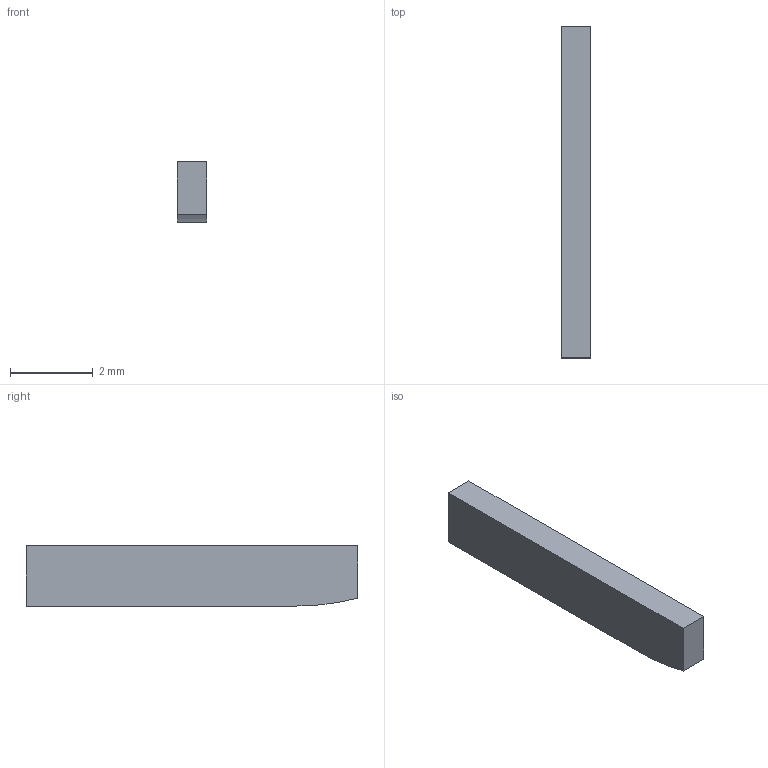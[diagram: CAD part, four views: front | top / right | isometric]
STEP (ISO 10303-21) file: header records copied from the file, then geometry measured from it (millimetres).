
FILE_DESCRIPTION(('Open CASCADE Model'),'2;1');
FILE_NAME('Open CASCADE Shape Model','2026-09-09T11:51:02',('Author'),( 'Open CASCADE'),'Open CASCADE STEP processor 7.7','Open CASCADE 7.7' ,'Unknown');
FILE_SCHEMA(('AUTOMOTIVE_DESIGN { 1 0 10303 214 1 1 1 1 }'));
Length unit declared in the file: millimetre
Products named in the file (1): Open CASCADE STEP translator 7.7 25
Bounding box: 0.7 x 8 x 1.45 mm (x, y, z)
Volume: 8.1 mm3; surface area: 36.1 mm2
Topology: 1 solids, 1 shells, 7 faces, 15 edges, 10 vertices
Faces by surface type: plane 6, cylinder 1
Entity records: 380 total; most frequent: CARTESIAN_POINT 79, DIRECTION 47, ORIENTED_EDGE 30, PCURVE 30, DEFINITIONAL_REPRESENTATION 30, LINE 25, VECTOR 25, B_SPLINE_CURVE_WITH_KNOTS 16
